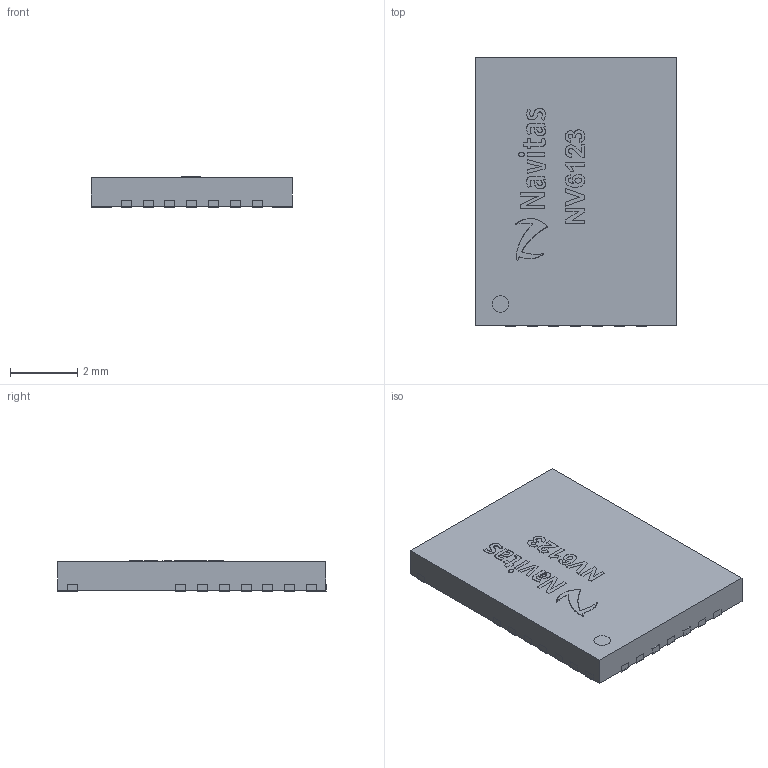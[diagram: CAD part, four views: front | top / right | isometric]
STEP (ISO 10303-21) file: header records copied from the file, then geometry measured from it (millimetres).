
FILE_DESCRIPTION(/* description */ (''),/* implementation_level */ '2;1');
FILE_NAME(/* name */ 'C:/Users/Tom/Documents/NV6123.stp',/* time_stamp */ '2020-03-02T10:59:27-08:00',/* author */ (''),/* organization */ (''),/* preprocessor_version */ 'ST-DEVELOPER v15.2',/* originating_system */ 'Autodesk Translator Framework v2.0.0.5431',/* authorisation */ '');
FILE_SCHEMA (('AUTOMOTIVE_DESIGN { 1 0 10303 214 3 1 1 }'));
Length unit declared in the file: centimetre
Products named in the file (1): NV6123
Bounding box: 6.02 x 8.02 x 0.9 mm (x, y, z)
Surface area: 190.7 mm2
Topology: 48 solids, 48 shells, 823 faces, 2181 edges, 1454 vertices
Faces by surface type: bspline 518, plane 304, cylinder 1
Full cylindrical faces by diameter (mm): 0.5 x1
Entity records: 30061 total; most frequent: CARTESIAN_POINT 13984, ORIENTED_EDGE 4360, EDGE_CURVE 2180, DIRECTION 1758, VERTEX_POINT 1454, LINE 1142, VECTOR 1142, EDGE_LOOP 830
